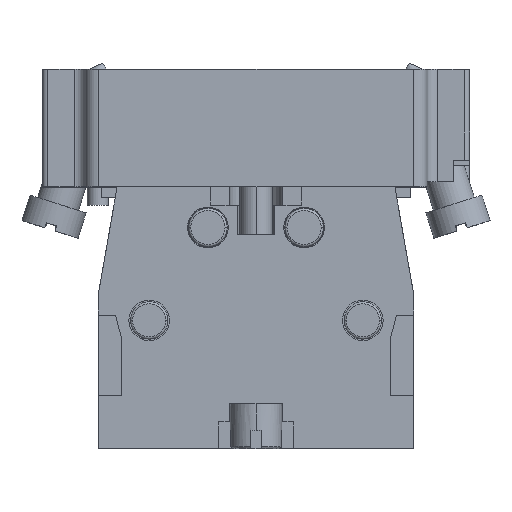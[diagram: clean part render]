
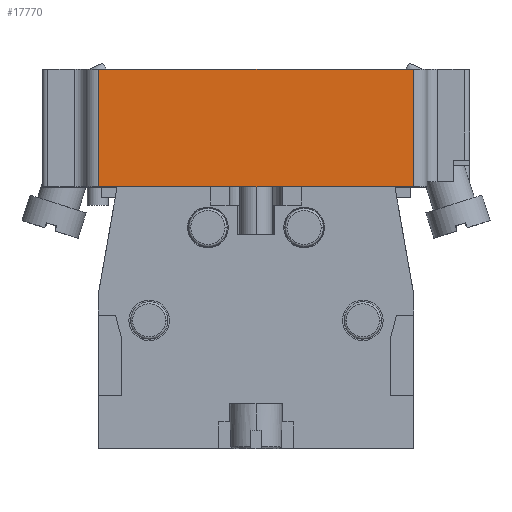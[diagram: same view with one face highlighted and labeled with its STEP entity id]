
A CAD part, top view. The second image highlights one B-rep face of the part: STEP entity #17770.
In plain terms, the highlighted planar face has unit normal (0, 0, 1) as drawn and (0, -1, 0) by its records, which use the part's own axes.
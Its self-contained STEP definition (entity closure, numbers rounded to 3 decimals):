
#522 = EDGE_CURVE ( 'NONE', #17390, #4569, #21850, .T. ) ;
#892 = EDGE_LOOP ( 'NONE', ( #17661, #20482, #20835, #16836 ) ) ;
#2533 = DIRECTION ( 'NONE',  ( 0., 0., 1. ) ) ;
#2657 = EDGE_CURVE ( 'NONE', #17390, #15401, #17260, .T. ) ;
#3631 = VECTOR ( 'NONE', #7134, 1000. ) ;
#3797 = VECTOR ( 'NONE', #10354, 1000. ) ;
#4001 = EDGE_CURVE ( 'NONE', #15401, #17414, #9053, .T. ) ;
#4286 = CARTESIAN_POINT ( 'NONE',  ( 20., -15., 11. ) ) ;
#4569 = VERTEX_POINT ( 'NONE', #17462 ) ;
#5005 = CARTESIAN_POINT ( 'NONE',  ( -14.7, -15., 11. ) ) ;
#5078 = CARTESIAN_POINT ( 'NONE',  ( 20., -15., 0. ) ) ;
#5343 = CARTESIAN_POINT ( 'NONE',  ( 14.7, -15., 11. ) ) ;
#7134 = DIRECTION ( 'NONE',  ( 0., 0., 1. ) ) ;
#7306 = EDGE_CURVE ( 'NONE', #17414, #4569, #13029, .T. ) ;
#7538 = AXIS2_PLACEMENT_3D ( 'NONE', #4286, #13163, #2533 ) ;
#7850 = PLANE ( 'NONE',  #7538 ) ;
#8533 = DIRECTION ( 'NONE',  ( 0., 0., -1. ) ) ;
#9053 = LINE ( 'NONE', #5078, #3797 ) ;
#10354 = DIRECTION ( 'NONE',  ( 1., 0., 0. ) ) ;
#10570 = FACE_OUTER_BOUND ( 'NONE', #892, .T. ) ;
#11899 = CARTESIAN_POINT ( 'NONE',  ( -14.7, -15., 11. ) ) ;
#12498 = VECTOR ( 'NONE', #8533, 1000. ) ;
#12849 = VECTOR ( 'NONE', #23080, 1000. ) ;
#13029 = LINE ( 'NONE', #5343, #3631 ) ;
#13163 = DIRECTION ( 'NONE',  ( 0., 1., 0. ) ) ;
#15401 = VERTEX_POINT ( 'NONE', #22653 ) ;
#15911 = CARTESIAN_POINT ( 'NONE',  ( 20., -15., 11. ) ) ;
#16836 = ORIENTED_EDGE ( 'NONE', *, *, #2657, .T. ) ;
#17260 = LINE ( 'NONE', #5005, #12498 ) ;
#17390 = VERTEX_POINT ( 'NONE', #11899 ) ;
#17414 = VERTEX_POINT ( 'NONE', #22797 ) ;
#17462 = CARTESIAN_POINT ( 'NONE',  ( 14.7, -15., 11. ) ) ;
#17661 = ORIENTED_EDGE ( 'NONE', *, *, #4001, .T. ) ;
#17770 = ADVANCED_FACE ( 'NONE', ( #10570 ), #7850, .F. ) ;
#20482 = ORIENTED_EDGE ( 'NONE', *, *, #7306, .T. ) ;
#20835 = ORIENTED_EDGE ( 'NONE', *, *, #522, .F. ) ;
#21850 = LINE ( 'NONE', #15911, #12849 ) ;
#22653 = CARTESIAN_POINT ( 'NONE',  ( -14.7, -15., 0. ) ) ;
#22797 = CARTESIAN_POINT ( 'NONE',  ( 14.7, -15., 0. ) ) ;
#23080 = DIRECTION ( 'NONE',  ( 1., 0., 0. ) ) ;
